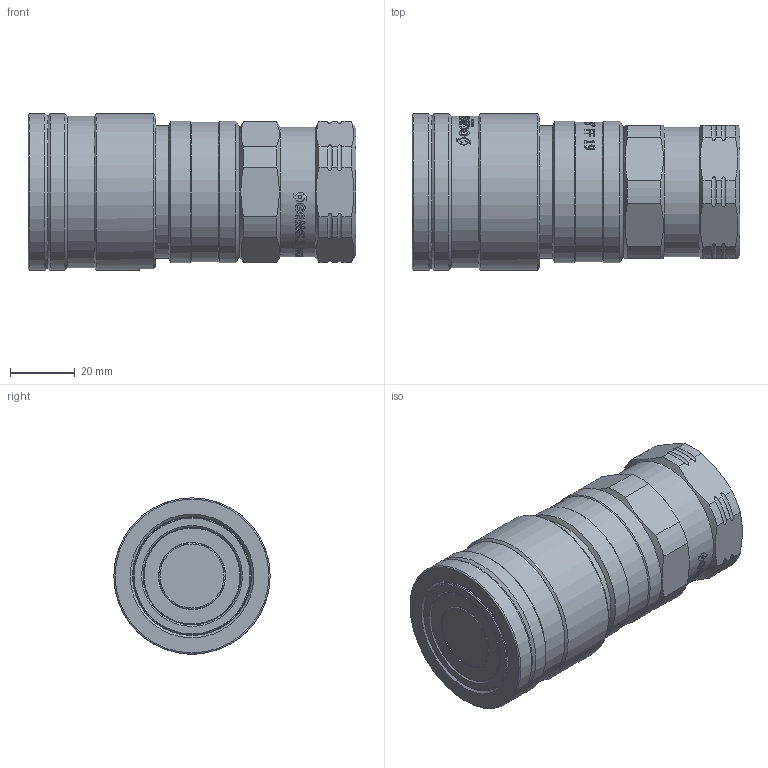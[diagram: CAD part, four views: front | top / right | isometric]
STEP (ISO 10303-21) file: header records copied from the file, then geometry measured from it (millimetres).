
FILE_DESCRIPTION(/* description */ (''),/* implementation_level */ '2;1');
FILE_NAME(/* name */ 'NC06S040005.stp',/* time_stamp */ '2024-11-22T15:05:35+01:00',/* author */ ('thomas.belotti'),/* organization */ (''),/* preprocessor_version */ 'ST-DEVELOPER v20',/* originating_system */ 'Autodesk Inventor 2024',/* authorisation */ '');
FILE_SCHEMA (('AUTOMOTIVE_DESIGN { 1 0 10303 214 3 1 1 }'));
Products named in the file (1): Parte10
Bounding box: 101.01 x 48.2 x 48.2 mm (x, y, z)
Volume: 145579.4 mm3; surface area: 23716.7 mm2
Topology: 1 solids, 1 shells, 1806 faces, 5091 edges, 3391 vertices
Faces by surface type: bspline 1175, plane 460, cylinder 136, cone 19, torus 16
Full cylindrical faces by diameter (mm): 20.55 x1, 20.75 x1, 24.91 x1, 27.5 x1, 30 x1, 30.1 x1, 36.3 x1, 36.7 x1, 37.208 x1, 37.3 x1, 40 x1, 40.9 x1, 41.1 x1, 43 x1, 43.6 x1, 43.7 x1, 46.7 x1, 48.2 x3
Entity records: 77905 total; most frequent: CARTESIAN_POINT 37501, ORIENTED_EDGE 10182, EDGE_CURVE 5091, DIRECTION 4255, VERTEX_POINT 3390, B_SPLINE_CURVE_WITH_KNOTS 2600, LINE 1931, VECTOR 1931
